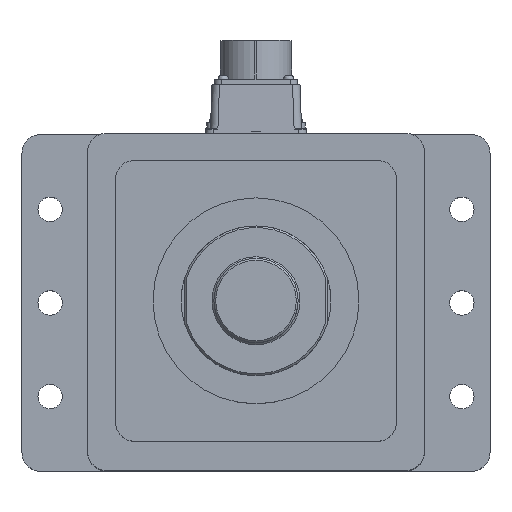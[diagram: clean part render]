
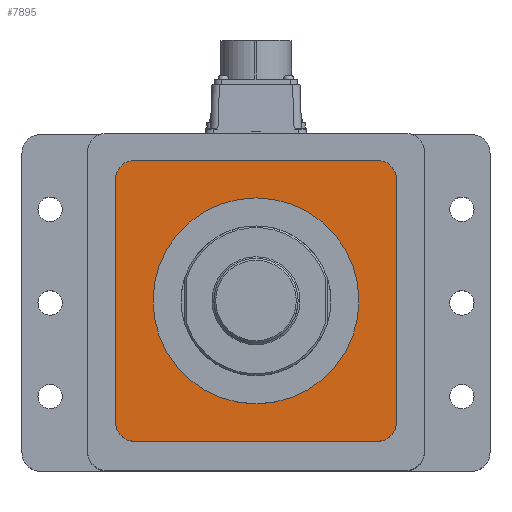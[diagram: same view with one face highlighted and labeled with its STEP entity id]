
A CAD part, top view. The second image highlights one B-rep face of the part: STEP entity #7895.
In plain terms, the highlighted planar face has unit normal (0, 0, 1).
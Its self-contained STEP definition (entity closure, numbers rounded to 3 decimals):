
#138 = DIRECTION ( 'NONE',  ( 1., 0., 0. ) ) ;
#166 = AXIS2_PLACEMENT_3D ( 'NONE', #28989, #6315, #8277 ) ;
#477 = DIRECTION ( 'NONE',  ( 0., -1., 0. ) ) ;
#527 = EDGE_CURVE ( 'NONE', #19778, #3535, #25691, .T. ) ;
#747 = CARTESIAN_POINT ( 'NONE',  ( -75., -65., 315. ) ) ;
#1303 = ORIENTED_EDGE ( 'NONE', *, *, #1951, .T. ) ;
#1409 = AXIS2_PLACEMENT_3D ( 'NONE', #15305, #6507, #4064 ) ;
#1802 = DIRECTION ( 'NONE',  ( 0., 0., -1. ) ) ;
#1951 = EDGE_CURVE ( 'NONE', #14966, #23038, #23064, .T. ) ;
#2018 = CIRCLE ( 'NONE', #12888, 10. ) ;
#2796 = ORIENTED_EDGE ( 'NONE', *, *, #20869, .F. ) ;
#2997 = CARTESIAN_POINT ( 'NONE',  ( -65., -75., 315. ) ) ;
#3353 = DIRECTION ( 'NONE',  ( 1., 0., 0. ) ) ;
#3535 = VERTEX_POINT ( 'NONE', #20094 ) ;
#3591 = CARTESIAN_POINT ( 'NONE',  ( 65., 75., 315. ) ) ;
#3900 = EDGE_LOOP ( 'NONE', ( #2796, #7759 ) ) ;
#4064 = DIRECTION ( 'NONE',  ( -1., 0., 0. ) ) ;
#4301 = ORIENTED_EDGE ( 'NONE', *, *, #28074, .F. ) ;
#4852 = VECTOR ( 'NONE', #477, 1000. ) ;
#5241 = ORIENTED_EDGE ( 'NONE', *, *, #11466, .F. ) ;
#5554 = VERTEX_POINT ( 'NONE', #25323 ) ;
#5856 = CIRCLE ( 'NONE', #166, 55. ) ;
#6315 = DIRECTION ( 'NONE',  ( 0., 0., 1. ) ) ;
#6448 = EDGE_CURVE ( 'NONE', #17536, #6476, #5856, .T. ) ;
#6476 = VERTEX_POINT ( 'NONE', #15198 ) ;
#6507 = DIRECTION ( 'NONE',  ( 0., 0., -1. ) ) ;
#6534 = ORIENTED_EDGE ( 'NONE', *, *, #10384, .T. ) ;
#7759 = ORIENTED_EDGE ( 'NONE', *, *, #6448, .F. ) ;
#7895 = ADVANCED_FACE ( 'NONE', ( #16366, #7916 ), #24416, .F. ) ;
#7916 = FACE_BOUND ( 'NONE', #3900, .T. ) ;
#8277 = DIRECTION ( 'NONE',  ( -1., 0., 0. ) ) ;
#8623 = DIRECTION ( 'NONE',  ( -1., 0., 0. ) ) ;
#9397 = DIRECTION ( 'NONE',  ( 0., 0., -1. ) ) ;
#10384 = EDGE_CURVE ( 'NONE', #23038, #15162, #24564, .T. ) ;
#11379 = CARTESIAN_POINT ( 'NONE',  ( 65., -65., 315. ) ) ;
#11466 = EDGE_CURVE ( 'NONE', #19778, #22414, #18138, .T. ) ;
#11704 = CIRCLE ( 'NONE', #20367, 10. ) ;
#11898 = LINE ( 'NONE', #25676, #4852 ) ;
#11904 = CARTESIAN_POINT ( 'NONE',  ( -65., -65., 315. ) ) ;
#12406 = CARTESIAN_POINT ( 'NONE',  ( 100., -75., 315. ) ) ;
#12888 = AXIS2_PLACEMENT_3D ( 'NONE', #11379, #9397, #27251 ) ;
#13988 = VECTOR ( 'NONE', #15465, 1000. ) ;
#14240 = VECTOR ( 'NONE', #8623, 1000. ) ;
#14871 = DIRECTION ( 'NONE',  ( -1., 0., 0. ) ) ;
#14966 = VERTEX_POINT ( 'NONE', #17005 ) ;
#14967 = CARTESIAN_POINT ( 'NONE',  ( 0., 0., 315. ) ) ;
#15162 = VERTEX_POINT ( 'NONE', #15333 ) ;
#15198 = CARTESIAN_POINT ( 'NONE',  ( -55., 0., 315. ) ) ;
#15216 = AXIS2_PLACEMENT_3D ( 'NONE', #22762, #20670, #138 ) ;
#15265 = CARTESIAN_POINT ( 'NONE',  ( 100., 75., 315. ) ) ;
#15305 = CARTESIAN_POINT ( 'NONE',  ( 0., 0., 315. ) ) ;
#15333 = CARTESIAN_POINT ( 'NONE',  ( -65., 75., 315. ) ) ;
#15454 = EDGE_LOOP ( 'NONE', ( #1303, #6534, #4301, #21159, #5241, #25075, #19801, #18478 ) ) ;
#15465 = DIRECTION ( 'NONE',  ( 0., -1., 0. ) ) ;
#15767 = VECTOR ( 'NONE', #3353, 1000. ) ;
#15927 = CARTESIAN_POINT ( 'NONE',  ( 75., -65., 315. ) ) ;
#16366 = FACE_OUTER_BOUND ( 'NONE', #15454, .T. ) ;
#17005 = CARTESIAN_POINT ( 'NONE',  ( 75., 65., 315. ) ) ;
#17536 = VERTEX_POINT ( 'NONE', #19172 ) ;
#17595 = DIRECTION ( 'NONE',  ( 1., 0., 0. ) ) ;
#17914 = LINE ( 'NONE', #18130, #13988 ) ;
#18130 = CARTESIAN_POINT ( 'NONE',  ( -75., 0., 315. ) ) ;
#18138 = CIRCLE ( 'NONE', #22154, 10. ) ;
#18478 = ORIENTED_EDGE ( 'NONE', *, *, #24639, .F. ) ;
#19037 = DIRECTION ( 'NONE',  ( 1., 0., 0. ) ) ;
#19172 = CARTESIAN_POINT ( 'NONE',  ( 55., 0., 315. ) ) ;
#19498 = AXIS2_PLACEMENT_3D ( 'NONE', #14967, #25871, #14871 ) ;
#19778 = VERTEX_POINT ( 'NONE', #2997 ) ;
#19801 = ORIENTED_EDGE ( 'NONE', *, *, #25189, .F. ) ;
#20094 = CARTESIAN_POINT ( 'NONE',  ( 65., -75., 315. ) ) ;
#20367 = AXIS2_PLACEMENT_3D ( 'NONE', #28916, #1802, #17595 ) ;
#20670 = DIRECTION ( 'NONE',  ( 0., 0., 1. ) ) ;
#20869 = EDGE_CURVE ( 'NONE', #6476, #17536, #29218, .T. ) ;
#21159 = ORIENTED_EDGE ( 'NONE', *, *, #25041, .T. ) ;
#22154 = AXIS2_PLACEMENT_3D ( 'NONE', #11904, #23487, #19037 ) ;
#22414 = VERTEX_POINT ( 'NONE', #747 ) ;
#22762 = CARTESIAN_POINT ( 'NONE',  ( 65., 65., 315. ) ) ;
#23038 = VERTEX_POINT ( 'NONE', #3591 ) ;
#23064 = CIRCLE ( 'NONE', #15216, 10. ) ;
#23487 = DIRECTION ( 'NONE',  ( 0., 0., -1. ) ) ;
#24416 = PLANE ( 'NONE',  #1409 ) ;
#24564 = LINE ( 'NONE', #15265, #14240 ) ;
#24639 = EDGE_CURVE ( 'NONE', #14966, #27616, #11898, .T. ) ;
#25041 = EDGE_CURVE ( 'NONE', #5554, #22414, #17914, .T. ) ;
#25075 = ORIENTED_EDGE ( 'NONE', *, *, #527, .T. ) ;
#25189 = EDGE_CURVE ( 'NONE', #27616, #3535, #2018, .T. ) ;
#25323 = CARTESIAN_POINT ( 'NONE',  ( -75., 65., 315. ) ) ;
#25676 = CARTESIAN_POINT ( 'NONE',  ( 75., 0., 315. ) ) ;
#25691 = LINE ( 'NONE', #12406, #15767 ) ;
#25871 = DIRECTION ( 'NONE',  ( 0., 0., 1. ) ) ;
#27251 = DIRECTION ( 'NONE',  ( 1., 0., 0. ) ) ;
#27616 = VERTEX_POINT ( 'NONE', #15927 ) ;
#28074 = EDGE_CURVE ( 'NONE', #5554, #15162, #11704, .T. ) ;
#28916 = CARTESIAN_POINT ( 'NONE',  ( -65., 65., 315. ) ) ;
#28989 = CARTESIAN_POINT ( 'NONE',  ( 0., 0., 315. ) ) ;
#29218 = CIRCLE ( 'NONE', #19498, 55. ) ;
